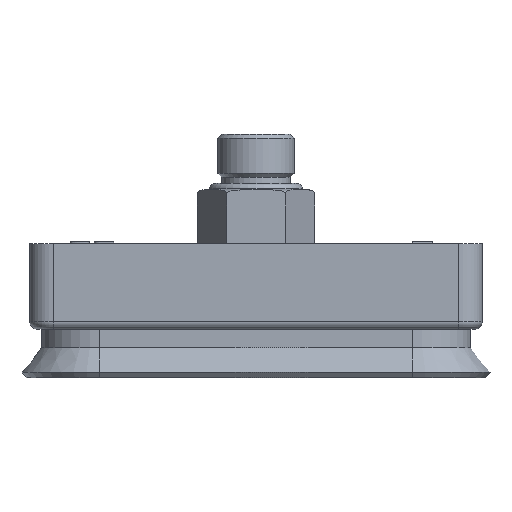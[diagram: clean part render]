
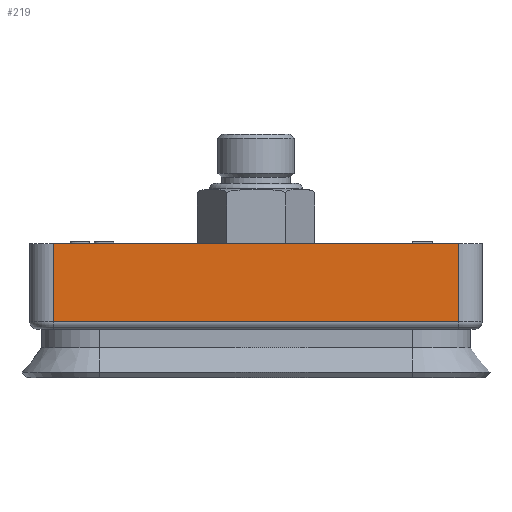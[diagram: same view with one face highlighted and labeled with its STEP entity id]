
A CAD part, front view. The second image highlights one B-rep face of the part: STEP entity #219.
In plain terms, the highlighted planar face has unit normal (0, -1, 0).
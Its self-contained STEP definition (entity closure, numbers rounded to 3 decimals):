
#219 = ADVANCED_FACE( '', ( #597 ), #598, .F. );
#597 = FACE_OUTER_BOUND( '', #1174, .T. );
#598 = PLANE( '', #1175 );
#1174 = EDGE_LOOP( '', ( #1872, #1873, #1874, #1875 ) );
#1175 = AXIS2_PLACEMENT_3D( '', #1876, #1877, #1878 );
#1872 = ORIENTED_EDGE( '', *, *, #3687, .T. );
#1873 = ORIENTED_EDGE( '', *, *, #3688, .T. );
#1874 = ORIENTED_EDGE( '', *, *, #3639, .F. );
#1875 = ORIENTED_EDGE( '', *, *, #3689, .F. );
#1876 = CARTESIAN_POINT( '', ( -26., -9., -0.9 ) );
#1877 = DIRECTION( '', ( 0., 1., 0. ) );
#1878 = DIRECTION( '', ( 0., 0., 1. ) );
#3639 = EDGE_CURVE( '', #4212, #4213, #4214, .T. );
#3687 = EDGE_CURVE( '', #4296, #4297, #4298, .T. );
#3688 = EDGE_CURVE( '', #4297, #4213, #4299, .T. );
#3689 = EDGE_CURVE( '', #4296, #4212, #4300, .T. );
#4212 = VERTEX_POINT( '', #5056 );
#4213 = VERTEX_POINT( '', #5057 );
#4214 = LINE( '', #5058, #5059 );
#4296 = VERTEX_POINT( '', #5166 );
#4297 = VERTEX_POINT( '', #5167 );
#4298 = LINE( '', #5168, #5169 );
#4299 = LINE( '', #5170, #5171 );
#4300 = LINE( '', #5172, #5173 );
#5056 = CARTESIAN_POINT( '', ( 26., -9., -0.9 ) );
#5057 = CARTESIAN_POINT( '', ( 26., -9., -10.9 ) );
#5058 = CARTESIAN_POINT( '', ( 26., -9., -0.9 ) );
#5059 = VECTOR( '', #7092, 1000. );
#5166 = CARTESIAN_POINT( '', ( -26., -9., -0.9 ) );
#5167 = CARTESIAN_POINT( '', ( -26., -9., -10.9 ) );
#5168 = CARTESIAN_POINT( '', ( -26., -9., -0.9 ) );
#5169 = VECTOR( '', #7148, 1000. );
#5170 = CARTESIAN_POINT( '', ( -26., -9., -10.9 ) );
#5171 = VECTOR( '', #7149, 1000. );
#5172 = CARTESIAN_POINT( '', ( -26., -9., -0.9 ) );
#5173 = VECTOR( '', #7150, 1000. );
#7092 = DIRECTION( '', ( 0., 0., -1. ) );
#7148 = DIRECTION( '', ( 0., 0., -1. ) );
#7149 = DIRECTION( '', ( 1., 0., 0. ) );
#7150 = DIRECTION( '', ( 1., 0., 0. ) );
